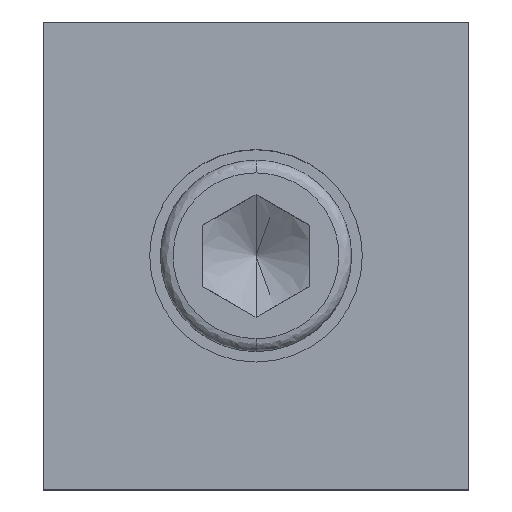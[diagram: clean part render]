
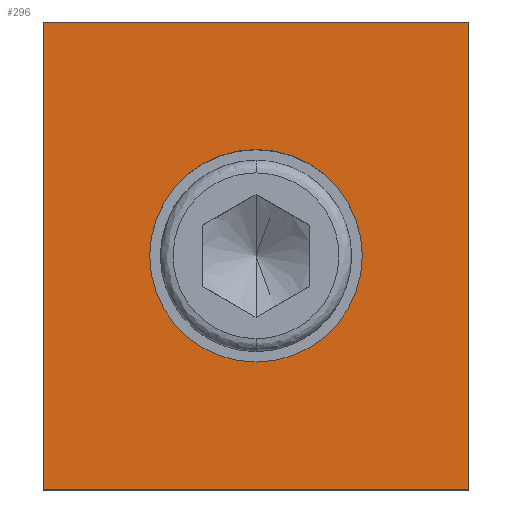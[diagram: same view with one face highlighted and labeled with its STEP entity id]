
A CAD part, top view. The second image highlights one B-rep face of the part: STEP entity #296.
In plain terms, the highlighted planar face has unit normal (0, 0, 1).
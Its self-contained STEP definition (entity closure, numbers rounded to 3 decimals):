
#12 = LINE ( 'NONE', #906, #658 ) ;
#15 = CARTESIAN_POINT ( 'NONE',  ( 20., -22., 21.4 ) ) ;
#22 = VERTEX_POINT ( 'NONE', #516 ) ;
#62 = VERTEX_POINT ( 'NONE', #403 ) ;
#90 = CARTESIAN_POINT ( 'NONE',  ( 0., 0., 21.4 ) ) ;
#144 = LINE ( 'NONE', #1394, #1323 ) ;
#145 = EDGE_CURVE ( 'NONE', #1417, #22, #904, .T. ) ;
#166 = EDGE_CURVE ( 'NONE', #1085, #639, #539, .T. ) ;
#182 = ORIENTED_EDGE ( 'NONE', *, *, #454, .T. ) ;
#185 = CARTESIAN_POINT ( 'NONE',  ( 0., 10., 21.4 ) ) ;
#249 = DIRECTION ( 'NONE',  ( 0., -1., 0. ) ) ;
#293 = ORIENTED_EDGE ( 'NONE', *, *, #908, .T. ) ;
#296 = ADVANCED_FACE ( 'NONE', ( #564, #911 ), #1371, .T. ) ;
#308 = CIRCLE ( 'NONE', #1127, 10. ) ;
#385 = ORIENTED_EDGE ( 'NONE', *, *, #145, .T. ) ;
#403 = CARTESIAN_POINT ( 'NONE',  ( -20., -22., 21.4 ) ) ;
#454 = EDGE_CURVE ( 'NONE', #62, #782, #12, .T. ) ;
#457 = VECTOR ( 'NONE', #1000, 1000. ) ;
#464 = CARTESIAN_POINT ( 'NONE',  ( 0., -10., 21.4 ) ) ;
#485 = ORIENTED_EDGE ( 'NONE', *, *, #1434, .T. ) ;
#516 = CARTESIAN_POINT ( 'NONE',  ( -20., 22., 21.4 ) ) ;
#539 = CIRCLE ( 'NONE', #1025, 10. ) ;
#564 = FACE_BOUND ( 'NONE', #683, .T. ) ;
#588 = ORIENTED_EDGE ( 'NONE', *, *, #166, .T. ) ;
#639 = VERTEX_POINT ( 'NONE', #185 ) ;
#650 = DIRECTION ( 'NONE',  ( 0., 0., -1. ) ) ;
#658 = VECTOR ( 'NONE', #1365, 1000. ) ;
#683 = EDGE_LOOP ( 'NONE', ( #588, #712 ) ) ;
#712 = ORIENTED_EDGE ( 'NONE', *, *, #1393, .T. ) ;
#733 = VECTOR ( 'NONE', #781, 1000. ) ;
#781 = DIRECTION ( 'NONE',  ( -1., 0., 0. ) ) ;
#782 = VERTEX_POINT ( 'NONE', #15 ) ;
#805 = CARTESIAN_POINT ( 'NONE',  ( -20., 22., 21.4 ) ) ;
#897 = DIRECTION ( 'NONE',  ( 0., -1., 0. ) ) ;
#904 = LINE ( 'NONE', #1227, #733 ) ;
#906 = CARTESIAN_POINT ( 'NONE',  ( -20., -22., 21.4 ) ) ;
#908 = EDGE_CURVE ( 'NONE', #22, #62, #144, .T. ) ;
#911 = FACE_OUTER_BOUND ( 'NONE', #915, .T. ) ;
#915 = EDGE_LOOP ( 'NONE', ( #485, #385, #293, #182 ) ) ;
#980 = LINE ( 'NONE', #1006, #457 ) ;
#985 = DIRECTION ( 'NONE',  ( 0., -1., 0. ) ) ;
#991 = CARTESIAN_POINT ( 'NONE',  ( 0., 0., 21.4 ) ) ;
#995 = CARTESIAN_POINT ( 'NONE',  ( 20., 22., 21.4 ) ) ;
#1000 = DIRECTION ( 'NONE',  ( 0., 1., 0. ) ) ;
#1006 = CARTESIAN_POINT ( 'NONE',  ( 20., 22., 21.4 ) ) ;
#1025 = AXIS2_PLACEMENT_3D ( 'NONE', #991, #1446, #897 ) ;
#1042 = DIRECTION ( 'NONE',  ( 0., -1., 0. ) ) ;
#1085 = VERTEX_POINT ( 'NONE', #464 ) ;
#1127 = AXIS2_PLACEMENT_3D ( 'NONE', #90, #650, #985 ) ;
#1160 = AXIS2_PLACEMENT_3D ( 'NONE', #805, #1254, #249 ) ;
#1227 = CARTESIAN_POINT ( 'NONE',  ( -20., 22., 21.4 ) ) ;
#1254 = DIRECTION ( 'NONE',  ( 0., 0., 1. ) ) ;
#1323 = VECTOR ( 'NONE', #1042, 1000. ) ;
#1365 = DIRECTION ( 'NONE',  ( 1., 0., 0. ) ) ;
#1371 = PLANE ( 'NONE',  #1160 ) ;
#1393 = EDGE_CURVE ( 'NONE', #639, #1085, #308, .T. ) ;
#1394 = CARTESIAN_POINT ( 'NONE',  ( -20., 22., 21.4 ) ) ;
#1417 = VERTEX_POINT ( 'NONE', #995 ) ;
#1434 = EDGE_CURVE ( 'NONE', #782, #1417, #980, .T. ) ;
#1446 = DIRECTION ( 'NONE',  ( 0., 0., -1. ) ) ;
